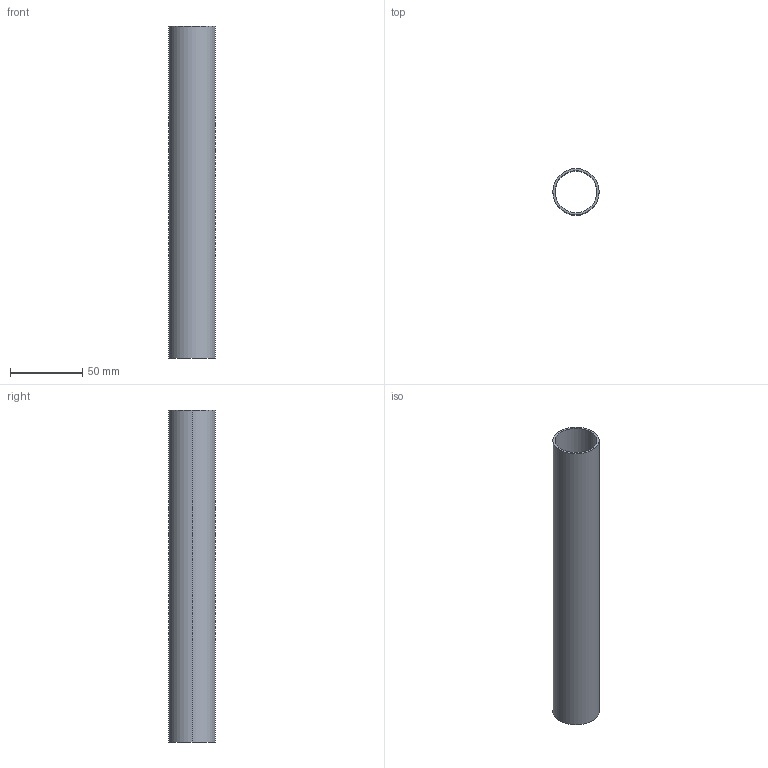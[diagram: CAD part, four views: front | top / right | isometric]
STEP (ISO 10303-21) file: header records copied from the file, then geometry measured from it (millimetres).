
FILE_DESCRIPTION (( 'STEP AP203' ), '1' );
FILE_NAME ('084.506.006PA L230.STEP', '2021-03-24T08:12:06', ( '' ), ( '' ), 'SwSTEP 2.0', 'SolidWorks 2018', '' );
FILE_SCHEMA (( 'CONFIG_CONTROL_DESIGN' ));
Length unit declared in the file: millimetre
Products named in the file (1): 084.506.006PA L230
Bounding box: 32 x 32 x 230 mm (x, y, z)
Volume: 33057.4 mm3; surface area: 44364 mm2
Topology: 1 solids, 1 shells, 6 faces, 12 edges, 8 vertices
Faces by surface type: cylinder 4, plane 2
Entity records: 245 total; most frequent: DIRECTION 34, CARTESIAN_POINT 27, ORIENTED_EDGE 24, AXIS2_PLACEMENT_3D 15, EDGE_CURVE 12, CIRCLE 8, PERSON_AND_ORGANIZATION 8, VERTEX_POINT 8
